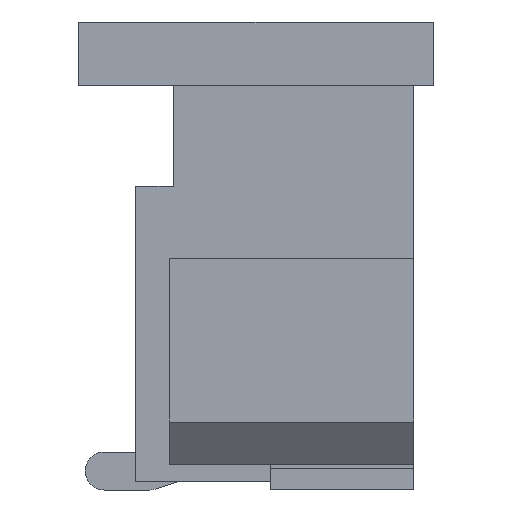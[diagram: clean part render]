
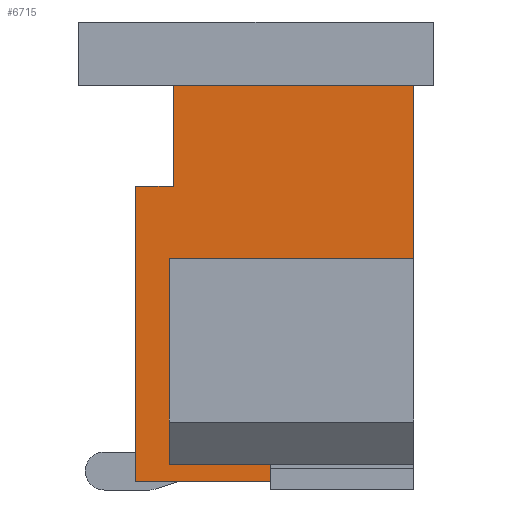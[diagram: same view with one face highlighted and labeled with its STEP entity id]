
A CAD part, left-side view. The second image highlights one B-rep face of the part: STEP entity #6715.
In plain terms, the highlighted planar face has unit normal (-1, 0, 0).
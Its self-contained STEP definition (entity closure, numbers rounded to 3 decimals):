
#34 = CARTESIAN_POINT ( 'NONE',  ( -5.945, 0.05, -2.15 ) ) ;
#85 = DIRECTION ( 'NONE',  ( 0., 0., 1. ) ) ;
#195 = VERTEX_POINT ( 'NONE', #17259 ) ;
#426 = EDGE_LOOP ( 'NONE', ( #7114, #20686, #17351, #1292, #5688, #19291, #18622, #12208 ) ) ;
#471 = CARTESIAN_POINT ( 'NONE',  ( -5.945, -0.55, -1.52 ) ) ;
#950 = VERTEX_POINT ( 'NONE', #993 ) ;
#993 = CARTESIAN_POINT ( 'NONE',  ( -5.945, 0.05, 0.3 ) ) ;
#1292 = ORIENTED_EDGE ( 'NONE', *, *, #11393, .F. ) ;
#1365 = EDGE_CURVE ( 'NONE', #4730, #2774, #17079, .T. ) ;
#1394 = DIRECTION ( 'NONE',  ( 0., 1., 0. ) ) ;
#1537 = CARTESIAN_POINT ( 'NONE',  ( -5.945, 0.05, -2.15 ) ) ;
#1720 = VERTEX_POINT ( 'NONE', #17962 ) ;
#2021 = ORIENTED_EDGE ( 'NONE', *, *, #20607, .F. ) ;
#2264 = CARTESIAN_POINT ( 'NONE',  ( -5.945, 0.05, -1.52 ) ) ;
#2381 = LINE ( 'NONE', #2582, #19450 ) ;
#2449 = CARTESIAN_POINT ( 'NONE',  ( -5.945, -0.55, -1.52 ) ) ;
#2582 = CARTESIAN_POINT ( 'NONE',  ( -5.945, 0.05, -1.52 ) ) ;
#2774 = VERTEX_POINT ( 'NONE', #14155 ) ;
#2832 = VECTOR ( 'NONE', #18797, 1000. ) ;
#3119 = DIRECTION ( 'NONE',  ( 0., 0., 1. ) ) ;
#3128 = VECTOR ( 'NONE', #11302, 1000. ) ;
#3224 = VECTOR ( 'NONE', #8776, 1000. ) ;
#3397 = CARTESIAN_POINT ( 'NONE',  ( -5.945, 1.25, -2.15 ) ) ;
#3444 = CARTESIAN_POINT ( 'NONE',  ( -5.945, 1.2, 1.15 ) ) ;
#3683 = LINE ( 'NONE', #8448, #14175 ) ;
#3697 = LINE ( 'NONE', #16303, #10623 ) ;
#3893 = EDGE_CURVE ( 'NONE', #950, #7076, #20392, .T. ) ;
#4118 = CARTESIAN_POINT ( 'NONE',  ( -5.945, 1.25, 0.3 ) ) ;
#4538 = DIRECTION ( 'NONE',  ( 0., 1., 0. ) ) ;
#4543 = VECTOR ( 'NONE', #19203, 1000. ) ;
#4576 = CARTESIAN_POINT ( 'NONE',  ( -5.945, -6.15, 0.3 ) ) ;
#4730 = VERTEX_POINT ( 'NONE', #471 ) ;
#4850 = VERTEX_POINT ( 'NONE', #3397 ) ;
#5454 = EDGE_CURVE ( 'NONE', #20599, #10048, #14009, .T. ) ;
#5622 = VERTEX_POINT ( 'NONE', #17600 ) ;
#5688 = ORIENTED_EDGE ( 'NONE', *, *, #8041, .T. ) ;
#5850 = LINE ( 'NONE', #12309, #2832 ) ;
#6055 = FACE_OUTER_BOUND ( 'NONE', #14718, .T. ) ;
#6554 = DIRECTION ( 'NONE',  ( 0., -1., 0. ) ) ;
#6654 = LINE ( 'NONE', #14506, #3128 ) ;
#6715 = ADVANCED_FACE ( 'NONE', ( #6055, #20488 ), #14219, .F. ) ;
#7076 = VERTEX_POINT ( 'NONE', #4118 ) ;
#7114 = ORIENTED_EDGE ( 'NONE', *, *, #18135, .F. ) ;
#7370 = EDGE_CURVE ( 'NONE', #7076, #4850, #3683, .T. ) ;
#7723 = LINE ( 'NONE', #20673, #16055 ) ;
#8041 = EDGE_CURVE ( 'NONE', #1720, #4850, #12957, .T. ) ;
#8128 = VERTEX_POINT ( 'NONE', #2264 ) ;
#8136 = DIRECTION ( 'NONE',  ( 0., 1., 0. ) ) ;
#8191 = CARTESIAN_POINT ( 'NONE',  ( -5.945, -1.65, -2.35 ) ) ;
#8448 = CARTESIAN_POINT ( 'NONE',  ( -5.945, 1.25, 0.3 ) ) ;
#8658 = DIRECTION ( 'NONE',  ( 0., 0., -1. ) ) ;
#8776 = DIRECTION ( 'NONE',  ( 0., -1., 0. ) ) ;
#8923 = VECTOR ( 'NONE', #6554, 1000. ) ;
#9315 = CARTESIAN_POINT ( 'NONE',  ( -5.945, 1.2, 2.35 ) ) ;
#9603 = CARTESIAN_POINT ( 'NONE',  ( -5.945, -0.55, -0.77 ) ) ;
#10048 = VERTEX_POINT ( 'NONE', #3444 ) ;
#10117 = VECTOR ( 'NONE', #15803, 1000. ) ;
#10623 = VECTOR ( 'NONE', #8136, 1000. ) ;
#10702 = DIRECTION ( 'NONE',  ( 1., 0., 0. ) ) ;
#10729 = ORIENTED_EDGE ( 'NONE', *, *, #15229, .F. ) ;
#10790 = ORIENTED_EDGE ( 'NONE', *, *, #19968, .F. ) ;
#11302 = DIRECTION ( 'NONE',  ( 0., 0., 1. ) ) ;
#11393 = EDGE_CURVE ( 'NONE', #1720, #8128, #20830, .T. ) ;
#12208 = ORIENTED_EDGE ( 'NONE', *, *, #18853, .F. ) ;
#12309 = CARTESIAN_POINT ( 'NONE',  ( -5.945, -1.65, 2.35 ) ) ;
#12957 = LINE ( 'NONE', #34, #13445 ) ;
#13445 = VECTOR ( 'NONE', #19539, 1000. ) ;
#13500 = ORIENTED_EDGE ( 'NONE', *, *, #14265, .F. ) ;
#13557 = AXIS2_PLACEMENT_3D ( 'NONE', #4576, #10702, #1394 ) ;
#13605 = DIRECTION ( 'NONE',  ( 0., -1., 0. ) ) ;
#14009 = LINE ( 'NONE', #18887, #4543 ) ;
#14155 = CARTESIAN_POINT ( 'NONE',  ( -5.945, -0.55, -0.77 ) ) ;
#14175 = VECTOR ( 'NONE', #8658, 1000. ) ;
#14219 = PLANE ( 'NONE',  #13557 ) ;
#14265 = EDGE_CURVE ( 'NONE', #20599, #195, #16943, .T. ) ;
#14506 = CARTESIAN_POINT ( 'NONE',  ( -5.945, 0.05, -0.77 ) ) ;
#14611 = LINE ( 'NONE', #16531, #8923 ) ;
#14718 = EDGE_LOOP ( 'NONE', ( #13500, #17248, #18429, #2021, #10729, #10790 ) ) ;
#15229 = EDGE_CURVE ( 'NONE', #17197, #5622, #3697, .T. ) ;
#15717 = VECTOR ( 'NONE', #4538, 1000. ) ;
#15803 = DIRECTION ( 'NONE',  ( 0., 0., 1. ) ) ;
#15937 = CARTESIAN_POINT ( 'NONE',  ( -5.945, 0.05, -0.77 ) ) ;
#16055 = VECTOR ( 'NONE', #85, 1000. ) ;
#16303 = CARTESIAN_POINT ( 'NONE',  ( -5.945, -1.65, -2.35 ) ) ;
#16308 = EDGE_CURVE ( 'NONE', #8128, #4730, #2381, .T. ) ;
#16531 = CARTESIAN_POINT ( 'NONE',  ( -5.945, 1.65, 1.15 ) ) ;
#16840 = CARTESIAN_POINT ( 'NONE',  ( -5.945, 1.2, 2.35 ) ) ;
#16943 = LINE ( 'NONE', #16840, #3224 ) ;
#17079 = LINE ( 'NONE', #2449, #10117 ) ;
#17197 = VERTEX_POINT ( 'NONE', #8191 ) ;
#17210 = CARTESIAN_POINT ( 'NONE',  ( -5.945, 0.05, 0.3 ) ) ;
#17248 = ORIENTED_EDGE ( 'NONE', *, *, #5454, .T. ) ;
#17259 = CARTESIAN_POINT ( 'NONE',  ( -5.945, -1.65, 2.35 ) ) ;
#17351 = ORIENTED_EDGE ( 'NONE', *, *, #16308, .F. ) ;
#17600 = CARTESIAN_POINT ( 'NONE',  ( -5.945, 1.65, -2.35 ) ) ;
#17962 = CARTESIAN_POINT ( 'NONE',  ( -5.945, 0.05, -2.15 ) ) ;
#17983 = EDGE_CURVE ( 'NONE', #19610, #10048, #14611, .T. ) ;
#18135 = EDGE_CURVE ( 'NONE', #2774, #18498, #19169, .T. ) ;
#18198 = VECTOR ( 'NONE', #3119, 1000. ) ;
#18429 = ORIENTED_EDGE ( 'NONE', *, *, #17983, .F. ) ;
#18498 = VERTEX_POINT ( 'NONE', #15937 ) ;
#18622 = ORIENTED_EDGE ( 'NONE', *, *, #3893, .F. ) ;
#18797 = DIRECTION ( 'NONE',  ( 0., 0., -1. ) ) ;
#18853 = EDGE_CURVE ( 'NONE', #18498, #950, #6654, .T. ) ;
#18887 = CARTESIAN_POINT ( 'NONE',  ( -5.945, 1.2, 2.35 ) ) ;
#19016 = VECTOR ( 'NONE', #20185, 1000. ) ;
#19169 = LINE ( 'NONE', #9603, #15717 ) ;
#19203 = DIRECTION ( 'NONE',  ( 0., 0., -1. ) ) ;
#19291 = ORIENTED_EDGE ( 'NONE', *, *, #7370, .F. ) ;
#19435 = CARTESIAN_POINT ( 'NONE',  ( -5.945, 1.65, 1.15 ) ) ;
#19450 = VECTOR ( 'NONE', #13605, 1000. ) ;
#19539 = DIRECTION ( 'NONE',  ( 0., 1., 0. ) ) ;
#19610 = VERTEX_POINT ( 'NONE', #19435 ) ;
#19968 = EDGE_CURVE ( 'NONE', #195, #17197, #5850, .T. ) ;
#20185 = DIRECTION ( 'NONE',  ( 0., 1., 0. ) ) ;
#20392 = LINE ( 'NONE', #17210, #19016 ) ;
#20488 = FACE_BOUND ( 'NONE', #426, .T. ) ;
#20599 = VERTEX_POINT ( 'NONE', #9315 ) ;
#20607 = EDGE_CURVE ( 'NONE', #5622, #19610, #7723, .T. ) ;
#20673 = CARTESIAN_POINT ( 'NONE',  ( -5.945, 1.65, -2.35 ) ) ;
#20686 = ORIENTED_EDGE ( 'NONE', *, *, #1365, .F. ) ;
#20830 = LINE ( 'NONE', #1537, #18198 ) ;
